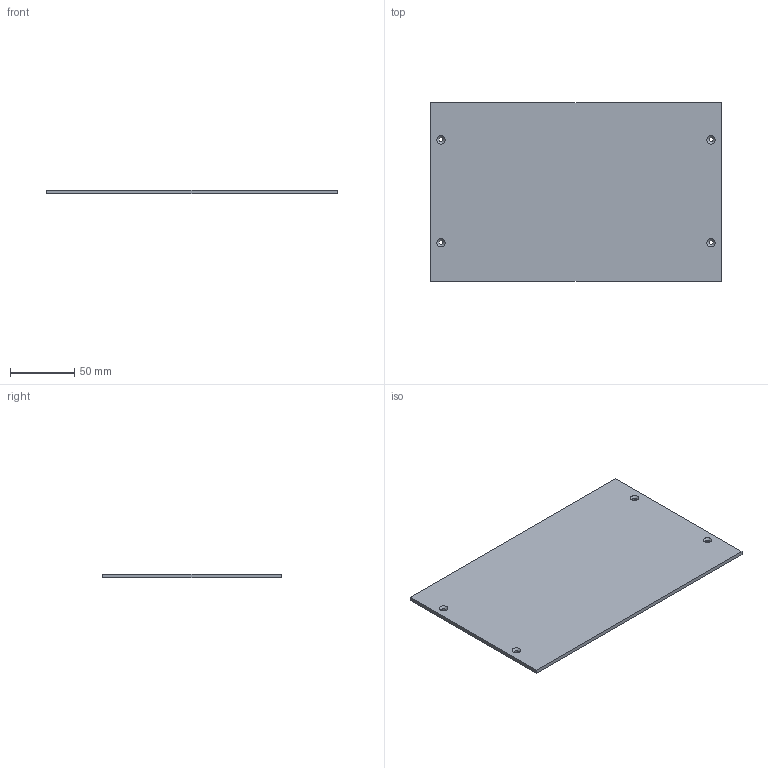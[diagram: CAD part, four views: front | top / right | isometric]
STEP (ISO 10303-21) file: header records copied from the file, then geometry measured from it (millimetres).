
FILE_DESCRIPTION(('Open CASCADE Model'),'2;1');
FILE_NAME('Open CASCADE Shape Model','2026-10-18T23:46:25',('Author'),( 'Open CASCADE'),'Open CASCADE STEP processor 7.9','Open CASCADE 7.9' ,'Unknown');
FILE_SCHEMA(('AUTOMOTIVE_DESIGN { 1 0 10303 214 1 1 1 1 }'));
Length unit declared in the file: millimetre
Products named in the file (1): Open CASCADE STEP translator 7.9 3
Bounding box: 226 x 139 x 3 mm (x, y, z)
Volume: 94066.1 mm3; surface area: 65047.3 mm2
Topology: 1 solids, 1 shells, 14 faces, 32 edges, 20 vertices
Faces by surface type: plane 6, cone 4, cylinder 4
Full cylindrical faces by diameter (mm): 3.4 x4
Entity records: 838 total; most frequent: DIRECTION 138, CARTESIAN_POINT 131, LINE 76, VECTOR 76, ORIENTED_EDGE 64, PCURVE 64, DEFINITIONAL_REPRESENTATION 64, EDGE_CURVE 32
